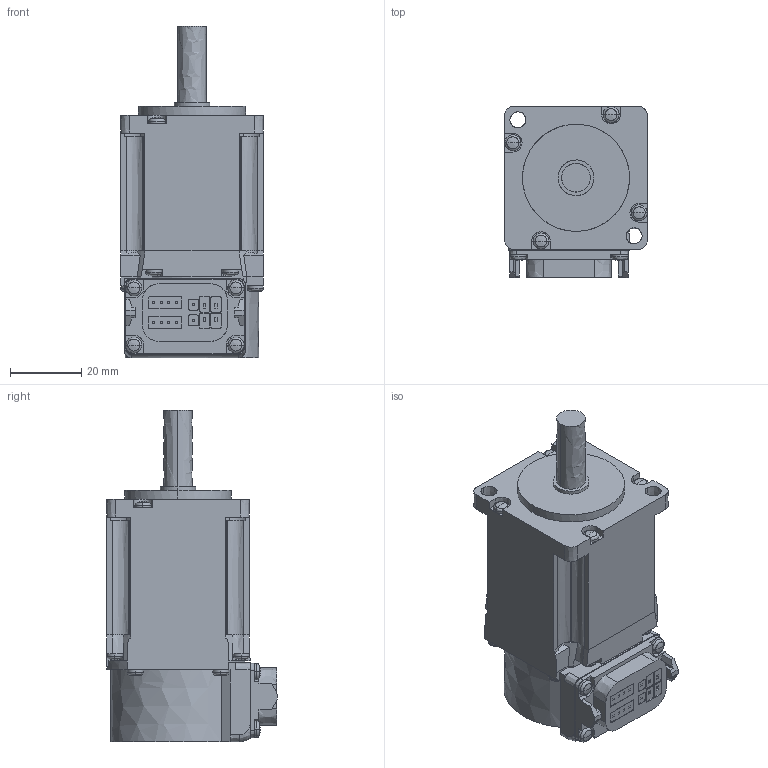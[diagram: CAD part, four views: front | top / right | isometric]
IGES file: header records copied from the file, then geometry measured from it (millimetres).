
Start section:  PTC IGES file: hk-kt13w_-_asm.igs
Global section: file name: hk-kt13w_-_asm.igs; native system: Creo Parametric by PTC Inc.; preprocessor: 2016380; author: XE90682; organization: Unknown; date: 20190115.163400; units: millimetre
Bounding box: 40 x 47.85 x 93 mm (x, y, z)
Volume: 99847.7 mm3; surface area: 15960.7 mm2
Topology: 1 solids, 1 shells, 466 faces, 1224 edges, 765 vertices
Faces by surface type: bspline 466
